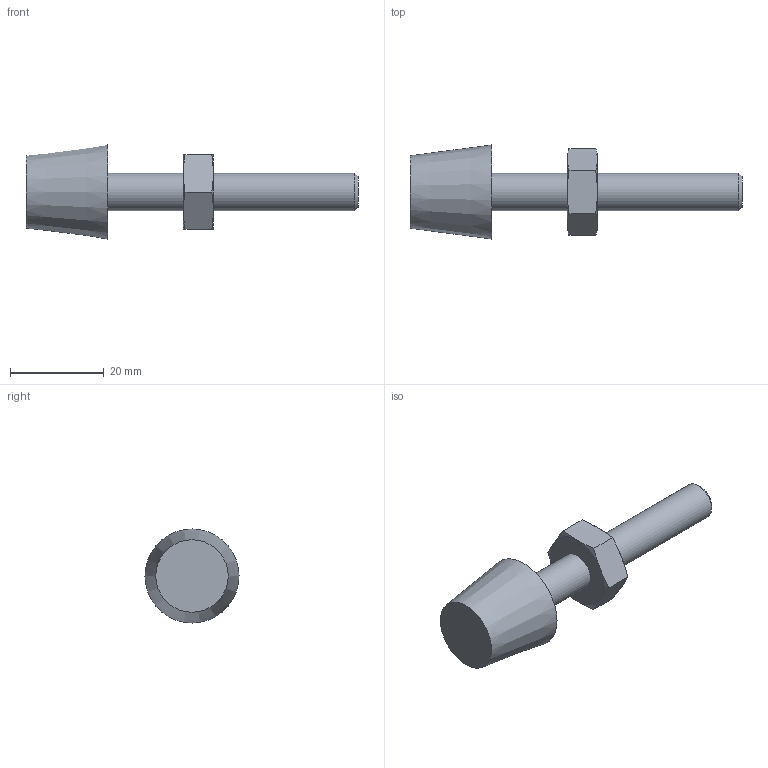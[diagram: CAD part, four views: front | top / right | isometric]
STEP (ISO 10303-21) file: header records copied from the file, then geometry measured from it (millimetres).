
FILE_DESCRIPTION(/* description */ ('RICAVATO DA SPEEDY BLOCK COD, 10142'),/* implementation_level */ '2;1');
FILE_NAME(/* name */ 'C:\Local Work Area\Progetti\AP\CALIBRI\22.55.ipt.stp',/* time_stamp */ '2015-05-15T09:05:45+02:00',/* author */ (''),/* organization */ ('SPEEDYBLOCK'),/* preprocessor_version */ 'ST-DEVELOPER v15.2',/* originating_system */ 'Autodesk Inventor 2014',/* authorisation */ '');
FILE_SCHEMA (('AUTOMOTIVE_DESIGN { 1 0 10303 214 3 1 1 }'));
Length unit declared in the file: millimetre
Products named in the file (1): 22.55
Bounding box: 71 x 20.11 x 20.11 mm (x, y, z)
Volume: 8157.5 mm3; surface area: 3352.8 mm2
Topology: 1 solids, 1 shells, 27 faces, 55 edges, 33 vertices
Faces by surface type: cone 14, plane 11, cylinder 2
Full cylindrical faces by diameter (mm): 8 x2
Entity records: 672 total; most frequent: CARTESIAN_POINT 156, DIRECTION 100, ORIENTED_EDGE 98, EDGE_CURVE 49, AXIS2_PLACEMENT_3D 47, EDGE_LOOP 34, VERTEX_POINT 31, ADVANCED_FACE 27
